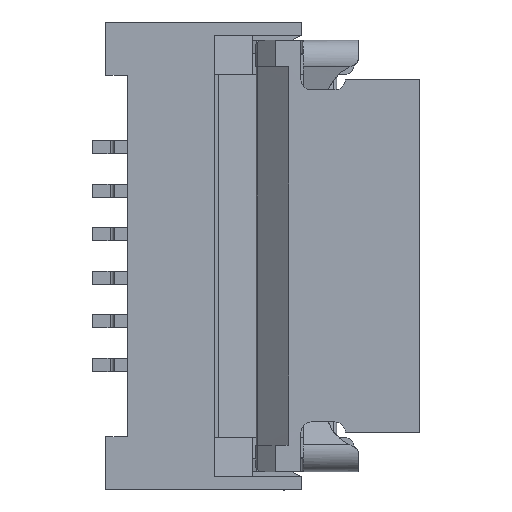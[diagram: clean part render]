
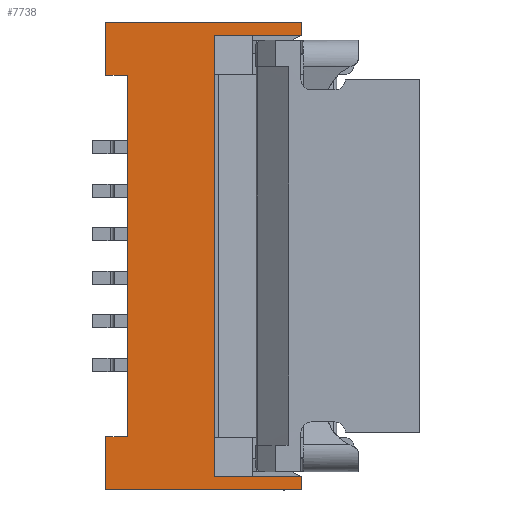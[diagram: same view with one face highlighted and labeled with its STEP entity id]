
A CAD part, top view. The second image highlights one B-rep face of the part: STEP entity #7738.
In plain terms, the highlighted planar face has unit normal (0, 0, 1).
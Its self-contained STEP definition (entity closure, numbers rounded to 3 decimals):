
#19 = CARTESIAN_POINT ( 'NONE',  ( -0.868, -3.776, -0.021 ) ) ;
#41 = VECTOR ( 'NONE', #798, 1000. ) ;
#103 = EDGE_CURVE ( 'NONE', #9153, #6802, #9283, .T. ) ;
#235 = LINE ( 'NONE', #1905, #7850 ) ;
#245 = CARTESIAN_POINT ( 'NONE',  ( -1.118, -8.536, -0.021 ) ) ;
#295 = EDGE_CURVE ( 'NONE', #2043, #8352, #10048, .T. ) ;
#302 = EDGE_CURVE ( 'NONE', #760, #7150, #9053, .T. ) ;
#617 = CARTESIAN_POINT ( 'NONE',  ( -0.868, -7.926, -0.021 ) ) ;
#760 = VERTEX_POINT ( 'NONE', #4453 ) ;
#798 = DIRECTION ( 'NONE',  ( 0., 1., 0. ) ) ;
#876 = VERTEX_POINT ( 'NONE', #1361 ) ;
#1067 = LINE ( 'NONE', #6958, #7268 ) ;
#1083 = ORIENTED_EDGE ( 'NONE', *, *, #9715, .F. ) ;
#1185 = DIRECTION ( 'NONE',  ( 1., 0., 0. ) ) ;
#1236 = VECTOR ( 'NONE', #7475, 1000. ) ;
#1361 = CARTESIAN_POINT ( 'NONE',  ( 0.132, -8.386, -0.021 ) ) ;
#1369 = CARTESIAN_POINT ( 'NONE',  ( -1.118, -3.776, -0.021 ) ) ;
#1706 = EDGE_CURVE ( 'NONE', #8352, #9071, #7987, .T. ) ;
#1720 = CARTESIAN_POINT ( 'NONE',  ( 0., 0., -0.021 ) ) ;
#1781 = CARTESIAN_POINT ( 'NONE',  ( 0.132, -3.316, -0.021 ) ) ;
#1905 = CARTESIAN_POINT ( 'NONE',  ( -0.868, 6.224, -0.021 ) ) ;
#2043 = VERTEX_POINT ( 'NONE', #9552 ) ;
#2054 = CARTESIAN_POINT ( 'NONE',  ( 0.132, -8.386, -0.021 ) ) ;
#2107 = EDGE_CURVE ( 'NONE', #10419, #8085, #235, .T. ) ;
#2154 = VECTOR ( 'NONE', #8280, 1000. ) ;
#2825 = ORIENTED_EDGE ( 'NONE', *, *, #7073, .F. ) ;
#2851 = CARTESIAN_POINT ( 'NONE',  ( 1.132, -3.316, -0.021 ) ) ;
#2899 = VECTOR ( 'NONE', #2998, 1000. ) ;
#2947 = CARTESIAN_POINT ( 'NONE',  ( -0.868, -7.926, -0.021 ) ) ;
#2993 = ORIENTED_EDGE ( 'NONE', *, *, #10190, .T. ) ;
#2998 = DIRECTION ( 'NONE',  ( 1., 0., 0. ) ) ;
#3101 = VERTEX_POINT ( 'NONE', #6684 ) ;
#3260 = CARTESIAN_POINT ( 'NONE',  ( -1.118, -3.166, -0.021 ) ) ;
#3277 = CARTESIAN_POINT ( 'NONE',  ( -0.868, -3.776, -0.021 ) ) ;
#3307 = LINE ( 'NONE', #1781, #10103 ) ;
#3389 = FACE_OUTER_BOUND ( 'NONE', #9862, .T. ) ;
#3459 = LINE ( 'NONE', #10050, #4852 ) ;
#3559 = EDGE_CURVE ( 'NONE', #6802, #876, #3459, .T. ) ;
#3608 = VECTOR ( 'NONE', #4597, 1000. ) ;
#3758 = EDGE_CURVE ( 'NONE', #8085, #760, #8107, .T. ) ;
#3911 = CARTESIAN_POINT ( 'NONE',  ( 1.132, -3.166, -0.021 ) ) ;
#3951 = VECTOR ( 'NONE', #6900, 1000. ) ;
#4108 = ORIENTED_EDGE ( 'NONE', *, *, #6536, .F. ) ;
#4114 = CARTESIAN_POINT ( 'NONE',  ( -1.118, -7.926, -0.021 ) ) ;
#4240 = ORIENTED_EDGE ( 'NONE', *, *, #2107, .T. ) ;
#4423 = CARTESIAN_POINT ( 'NONE',  ( 1.132, -8.536, -0.021 ) ) ;
#4453 = CARTESIAN_POINT ( 'NONE',  ( -1.118, -7.926, -0.021 ) ) ;
#4597 = DIRECTION ( 'NONE',  ( -1., 0., 0. ) ) ;
#4631 = ORIENTED_EDGE ( 'NONE', *, *, #1706, .F. ) ;
#4657 = CARTESIAN_POINT ( 'NONE',  ( 1.132, -3.316, -0.021 ) ) ;
#4852 = VECTOR ( 'NONE', #10931, 1000. ) ;
#5084 = DIRECTION ( 'NONE',  ( 0., 0., -1. ) ) ;
#5113 = LINE ( 'NONE', #19, #3951 ) ;
#5345 = ORIENTED_EDGE ( 'NONE', *, *, #10803, .T. ) ;
#5814 = DIRECTION ( 'NONE',  ( 0., -1., 0. ) ) ;
#5889 = VECTOR ( 'NONE', #10907, 1000. ) ;
#6091 = ORIENTED_EDGE ( 'NONE', *, *, #295, .F. ) ;
#6213 = VECTOR ( 'NONE', #7672, 1000. ) ;
#6536 = EDGE_CURVE ( 'NONE', #9497, #6887, #9251, .T. ) ;
#6684 = CARTESIAN_POINT ( 'NONE',  ( 0.132, -7.936, -0.021 ) ) ;
#6802 = VERTEX_POINT ( 'NONE', #7197 ) ;
#6843 = CARTESIAN_POINT ( 'NONE',  ( 1.132, -8.536, -0.021 ) ) ;
#6887 = VERTEX_POINT ( 'NONE', #3260 ) ;
#6900 = DIRECTION ( 'NONE',  ( -1., 0., 0. ) ) ;
#6939 = ORIENTED_EDGE ( 'NONE', *, *, #103, .T. ) ;
#6958 = CARTESIAN_POINT ( 'NONE',  ( -1.118, -3.166, -0.021 ) ) ;
#7073 = EDGE_CURVE ( 'NONE', #6887, #2043, #1067, .T. ) ;
#7150 = VERTEX_POINT ( 'NONE', #245 ) ;
#7197 = CARTESIAN_POINT ( 'NONE',  ( 1.132, -8.386, -0.021 ) ) ;
#7268 = VECTOR ( 'NONE', #1185, 1000. ) ;
#7351 = EDGE_CURVE ( 'NONE', #9071, #7720, #3307, .T. ) ;
#7383 = DIRECTION ( 'NONE',  ( -1., 0., 0. ) ) ;
#7472 = ORIENTED_EDGE ( 'NONE', *, *, #302, .T. ) ;
#7475 = DIRECTION ( 'NONE',  ( 0., 1., 0. ) ) ;
#7553 = ORIENTED_EDGE ( 'NONE', *, *, #3758, .T. ) ;
#7672 = DIRECTION ( 'NONE',  ( 0., 1., 0. ) ) ;
#7720 = VERTEX_POINT ( 'NONE', #8276 ) ;
#7738 = ADVANCED_FACE ( 'NONE', ( #3389 ), #10924, .F. ) ;
#7782 = DIRECTION ( 'NONE',  ( 0., -1., 0. ) ) ;
#7850 = VECTOR ( 'NONE', #7782, 1000. ) ;
#7911 = ORIENTED_EDGE ( 'NONE', *, *, #9261, .T. ) ;
#7965 = ORIENTED_EDGE ( 'NONE', *, *, #7351, .F. ) ;
#7987 = LINE ( 'NONE', #4657, #3608 ) ;
#8085 = VERTEX_POINT ( 'NONE', #2947 ) ;
#8107 = LINE ( 'NONE', #617, #9997 ) ;
#8276 = CARTESIAN_POINT ( 'NONE',  ( 0.132, -3.766, -0.021 ) ) ;
#8280 = DIRECTION ( 'NONE',  ( 0., -1., 0. ) ) ;
#8352 = VERTEX_POINT ( 'NONE', #2851 ) ;
#8702 = CARTESIAN_POINT ( 'NONE',  ( 0.132, -3.316, -0.021 ) ) ;
#9053 = LINE ( 'NONE', #4114, #10471 ) ;
#9071 = VERTEX_POINT ( 'NONE', #8702 ) ;
#9153 = VERTEX_POINT ( 'NONE', #4423 ) ;
#9221 = DIRECTION ( 'NONE',  ( 0., -1., 0. ) ) ;
#9251 = LINE ( 'NONE', #10705, #1236 ) ;
#9261 = EDGE_CURVE ( 'NONE', #7150, #9153, #10598, .T. ) ;
#9283 = LINE ( 'NONE', #6843, #6213 ) ;
#9497 = VERTEX_POINT ( 'NONE', #1369 ) ;
#9552 = CARTESIAN_POINT ( 'NONE',  ( 1.132, -3.166, -0.021 ) ) ;
#9715 = EDGE_CURVE ( 'NONE', #10419, #9497, #5113, .T. ) ;
#9862 = EDGE_LOOP ( 'NONE', ( #4240, #7553, #7472, #7911, #6939, #10975, #2993, #5345, #7965, #4631, #6091, #2825, #4108, #1083 ) ) ;
#9913 = LINE ( 'NONE', #10124, #5889 ) ;
#9926 = CARTESIAN_POINT ( 'NONE',  ( -1.118, -8.536, -0.021 ) ) ;
#9995 = DIRECTION ( 'NONE',  ( 0., -1., 0. ) ) ;
#9997 = VECTOR ( 'NONE', #7383, 1000. ) ;
#10048 = LINE ( 'NONE', #3911, #2154 ) ;
#10050 = CARTESIAN_POINT ( 'NONE',  ( 1.132, -8.386, -0.021 ) ) ;
#10103 = VECTOR ( 'NONE', #9221, 1000. ) ;
#10124 = CARTESIAN_POINT ( 'NONE',  ( 0.132, -8.386, -0.021 ) ) ;
#10190 = EDGE_CURVE ( 'NONE', #876, #3101, #10267, .T. ) ;
#10267 = LINE ( 'NONE', #2054, #41 ) ;
#10419 = VERTEX_POINT ( 'NONE', #3277 ) ;
#10471 = VECTOR ( 'NONE', #9995, 1000. ) ;
#10598 = LINE ( 'NONE', #9926, #2899 ) ;
#10705 = CARTESIAN_POINT ( 'NONE',  ( -1.118, -3.776, -0.021 ) ) ;
#10803 = EDGE_CURVE ( 'NONE', #3101, #7720, #9913, .T. ) ;
#10897 = AXIS2_PLACEMENT_3D ( 'NONE', #1720, #5084, #5814 ) ;
#10907 = DIRECTION ( 'NONE',  ( 0., 1., 0. ) ) ;
#10924 = PLANE ( 'NONE',  #10897 ) ;
#10931 = DIRECTION ( 'NONE',  ( -1., 0., 0. ) ) ;
#10975 = ORIENTED_EDGE ( 'NONE', *, *, #3559, .T. ) ;
